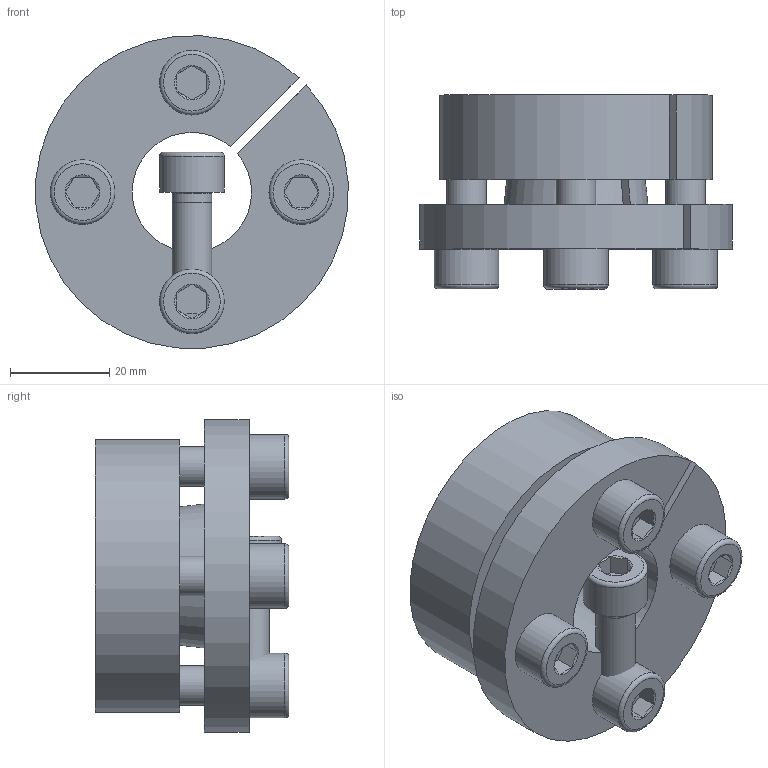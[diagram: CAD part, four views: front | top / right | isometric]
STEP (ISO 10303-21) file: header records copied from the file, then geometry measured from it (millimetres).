
FILE_DESCRIPTION( ( 'Unknown' ), '1' );
FILE_NAME( 'C:/Dokumente und Einstellungen/Sven/Desktop/15/KBS 15 - 24 x 55.stp', 'Unknown', ( 'Unknown' ), ( 'Unknown' ), 'XStep 1.0', 'Unknown', ' ' );
FILE_SCHEMA( ( 'automotive_design' ) );
Length unit declared in the file: millimetre
Products named in the file (3): Assem1; ISO EN DIN 4762 M8x25_5; KBS 15 - 24 x 55_0
Bounding box: 62.84 x 39 x 62.84 mm (x, y, z)
Volume: 114937.1 mm3; surface area: 43788.1 mm2
Topology: 7 solids, 7 shells, 165 faces, 342 edges, 211 vertices
Faces by surface type: plane 74, cylinder 42, cone 39, torus 10
Full cylindrical faces by diameter (mm): 6.647 x8, 7 x5, 8 x10, 9 x8, 13 x5
Entity records: 1434 total; most frequent: CARTESIAN_POINT 245, DIRECTION 216, ORIENTED_EDGE 162, AXIS2_PLACEMENT_3D 94, EDGE_CURVE 81, EDGE_LOOP 80, FACE_OUTER_BOUND 59, VERTEX_POINT 59
